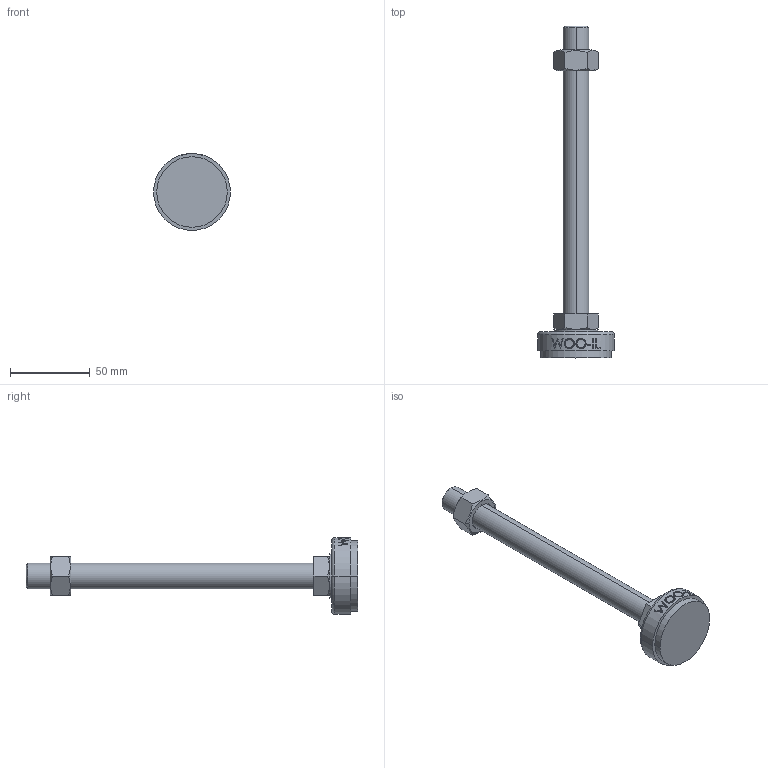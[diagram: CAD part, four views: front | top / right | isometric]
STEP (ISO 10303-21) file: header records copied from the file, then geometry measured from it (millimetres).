
FILE_DESCRIPTION (( 'STEP AP214' ), '1' );
FILE_NAME ('NS48-M16-180.step', '2021-01-11T05:44:08', ( '' ), ( '' ), 'SwSTEP 2.0', 'SolidWorks 2019', '' );
FILE_SCHEMA (( 'AUTOMOTIVE_DESIGN' ));
Length unit declared in the file: millimetre
Products named in the file (2): NS48-M16-180
Bounding box: 48 x 207.5 x 48 mm (x, y, z)
Volume: 73927.7 mm3; surface area: 19043.8 mm2
Topology: 3 solids, 3 shells, 96 faces, 223 edges, 144 vertices
Faces by surface type: plane 48, cylinder 18, bspline 16, cone 12, torus 2
Entity records: 4250 total; most frequent: CARTESIAN_POINT 2125, ORIENTED_EDGE 446, DIRECTION 381, EDGE_CURVE 223, VERTEX_POINT 144, AXIS2_PLACEMENT_3D 142, EDGE_LOOP 109, LINE 97
